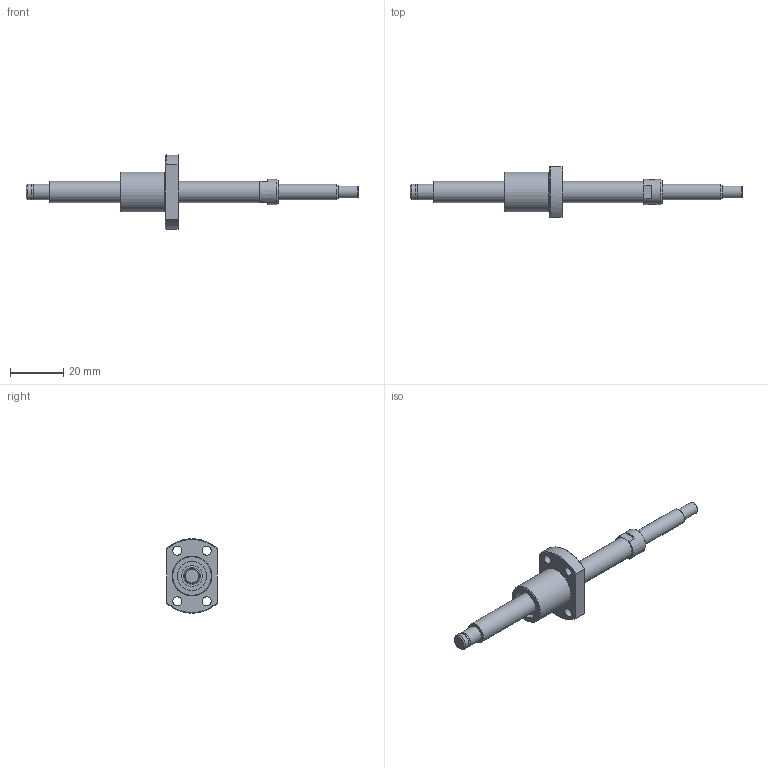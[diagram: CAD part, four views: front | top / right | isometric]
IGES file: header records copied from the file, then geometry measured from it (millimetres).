
Start section: Data from Parasolid IGES Translator 26.0.171, Copyright(c) 2006 Siemens PLM Software. All Rights Reserved.
Global section: file name: BNK0802-3RRG0+125LC5Y(48.5).igs; native system: By Siemens PLM Incorporated; preprocessor: XPlus GENERIC/IGES 26.0.171; author: Noname; organization: Noname; date: 20240709.084657; units: millimetre
Bounding box: 125 x 19 x 28 mm (x, y, z)
Surface area: 5861.5 mm2 (no closed solid volume)
Topology: 0 solids, 0 shells, 53 faces, 230 edges, 200 vertices
Faces by surface type: revolution 32, extrusion 21
